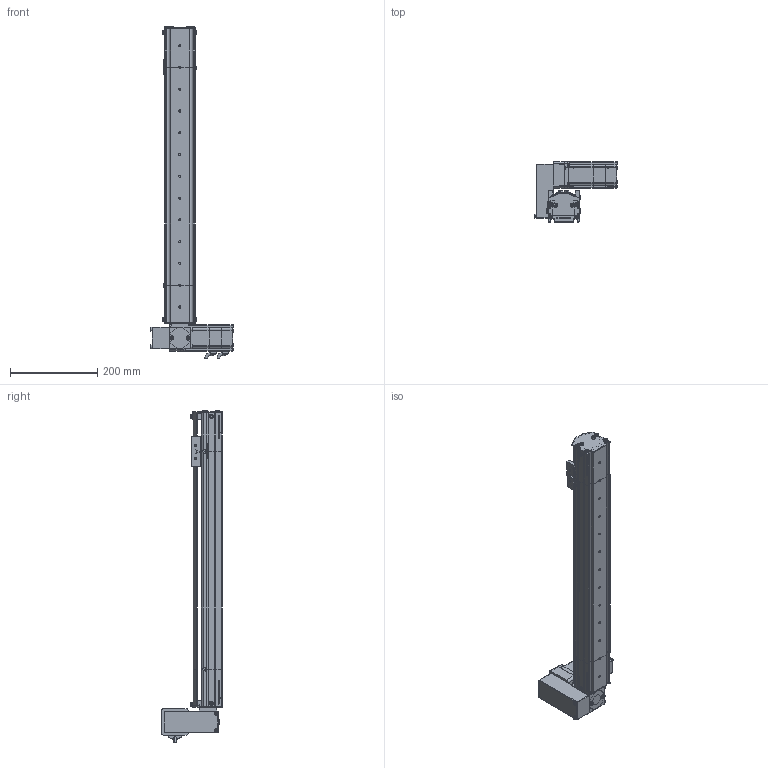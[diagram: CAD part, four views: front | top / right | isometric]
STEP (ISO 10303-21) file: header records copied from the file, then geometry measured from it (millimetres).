
FILE_DESCRIPTION (( 'STEP AP214' ), '1' );
FILE_NAME ('S07 TBN RT S500.STEP', '2010-06-29T11:26:56', ( 'Conseil Régional Haute-Normandie' ), ( 'Conseil Régional Haute-Normandie' ), 'SwSTEP 2.0', 'SolidWorks 2010', '' );
FILE_SCHEMA (( 'AUTOMOTIVE_DESIGN' ));
Length unit declared in the file: millimetre
Products named in the file (41): Vis M5 L16-2_Default; VisM3_Default; Conecteur2 60BLDC_Default; Cvis M5 L30_Default; Conecteur 60BLDC_Default; Axe 60BLDC_Default; P4_Default; GMB 60 90 310_Default; renvoi RT_Default; Plaque racord_Default; P3 90A_Default; P2 90A_Default; P1_Default; Couroie t皻e_Default; S07 TB tail (78)_Default; CHariot_Default; couroie tail_Default; vis M5 L12_Default; vis M5 L16_Default; Chariot; guide; Poulie_Default; T皻e de poulie_Default; couvercle tail TB; plaque de bout_Default; corp tail TB_Default; S07 TBN RT S500; Couroie  course 500_Default; Corp S07 course 500_Default; Course C L500_Default; corp moteur TB(146)_Default; S07 RT(146)_Default; couvercle S07 course 500 ; Poulie head_Default; cache t皻e axe_Default; couvercle moteur S07 TB; plaque de bout RT_Default; Pièce5^S07 RT(146); vis M5 L5_Default; cache t皻e_Default
Assembly tree (80 placements, depth 4):
  S07 TBN RT S500
    Course C L500_Default
      Corp S07 course 500_Default
      couvercle S07 course 500 
      Couroie  course 500_Default
    S07 RT(146)_Default
      vis M5 L5_Default  x6
      corp moteur TB(146)_Default
      Vis M5 L16-2_Default  x8
      Plaque racord_Default
      cache t皻e_Default  x2
      vis M5 L12_Default  x6
      Cvis M5 L30_Default  x2
      renvoi RT_Default
      couvercle moteur S07 TB
      Couroie t皻e_Default
      Poulie head_Default
      plaque de bout RT_Default
      cache t皻e axe_Default
      GMB 60 90 310_Default
        VisM3_Default  x12
        P4_Default
        Conecteur2 60BLDC_Default
        P2 90A_Default
        Conecteur 60BLDC_Default
        Axe 60BLDC_Default
        P1_Default
        P3 90A_Default
    S07 TB tail (78)_Default
      vis M5 L12_Default  x10
      Poulie_Default
        T皻e de poulie_Default
        Poulie_Default
      couroie tail_Default
      couvercle tail TB
      plaque de bout_Default
      corp tail TB_Default
    CHariot_Default
      vis M5 L16_Default  x2
      guide
      Chariot
  Pièce5^S07 RT(146)
Bounding box: 190.2 x 139.5 x 762 mm (x, y, z)
Volume: 1877853.8 mm3; surface area: 759680.9 mm2
Topology: 102 solids, 102 shells, 3904 faces, 9732 edges, 6285 vertices
Faces by surface type: plane 2224, cylinder 750, bspline 677, cone 125, torus 124, sphere 4
Entity records: 166709 total; most frequent: CARTESIAN_POINT 75115, ORIENTED_EDGE 15376, DIRECTION 12195, EDGE_CURVE 7688, VERTEX_POINT 5073, VECTOR 5033, LINE 5033, AXIS2_PLACEMENT_3D 3581
